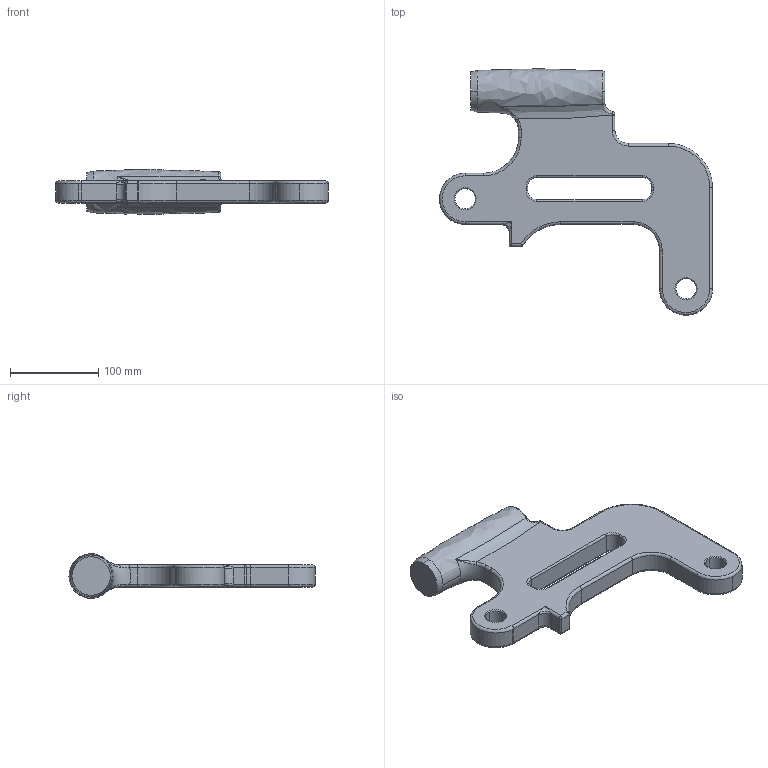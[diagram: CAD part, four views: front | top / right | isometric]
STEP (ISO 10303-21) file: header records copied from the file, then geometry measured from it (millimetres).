
FILE_DESCRIPTION (( 'STEP AP214' ), '1' );
FILE_NAME ('DKDK-350-FZ-04-A 楹蛌蟀諉啣.STEP', '2025-07-08T08:47:34', ( 'Windows 蚚誧' ), ( '' ), 'SwSTEP 2.0', 'SolidWorks 2020', '' );
FILE_SCHEMA (( 'AUTOMOTIVE_DESIGN' ));
Length unit declared in the file: millimetre
Products named in the file (1): DKDK-350-FZ-04-A 楹蛌蟀諉啣
Bounding box: 309.29 x 279.13 x 50.68 mm (x, y, z)
Volume: 1068467 mm3; surface area: 117362.6 mm2
Topology: 1 solids, 1 shells, 129 faces, 317 edges, 182 vertices
Faces by surface type: cylinder 50, torus 27, bspline 22, plane 18, cone 10, sphere 2
Entity records: 6534 total; most frequent: CARTESIAN_POINT 3585, DIRECTION 628, ORIENTED_EDGE 618, EDGE_CURVE 309, AXIS2_PLACEMENT_3D 263, VERTEX_POINT 182, CIRCLE 155, EDGE_LOOP 135
